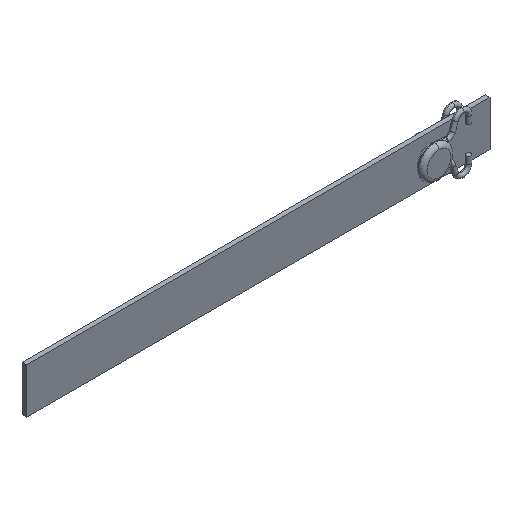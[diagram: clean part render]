
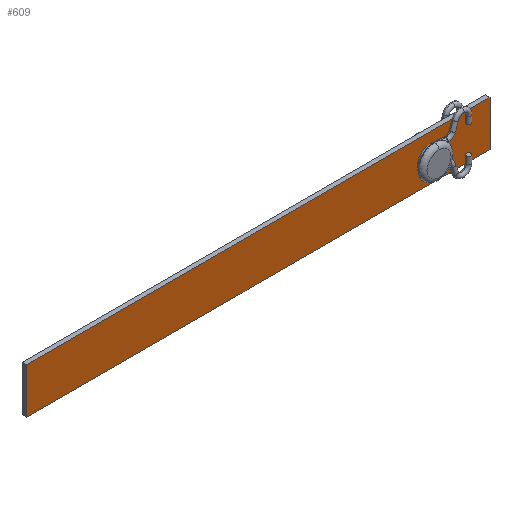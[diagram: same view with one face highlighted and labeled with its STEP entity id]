
A CAD part, isometric view. The second image highlights one B-rep face of the part: STEP entity #609.
In plain terms, the highlighted planar face has unit normal (0, -1, 0).
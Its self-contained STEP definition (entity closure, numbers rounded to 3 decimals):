
#4 = LINE ( 'NONE', #1346, #1741 ) ;
#21 = EDGE_CURVE ( 'NONE', #881, #181, #1284, .T. ) ;
#121 = CARTESIAN_POINT ( 'NONE',  ( -13., -0.5, 0. ) ) ;
#181 = VERTEX_POINT ( 'NONE', #668 ) ;
#301 = DIRECTION ( 'NONE',  ( 0., 0., 1. ) ) ;
#308 = AXIS2_PLACEMENT_3D ( 'NONE', #721, #1722, #702 ) ;
#368 = AXIS2_PLACEMENT_3D ( 'NONE', #121, #1299, #301 ) ;
#373 = CIRCLE ( 'NONE', #2165, 1.95 ) ;
#374 = CARTESIAN_POINT ( 'NONE',  ( 0., -0.5, -4.9 ) ) ;
#447 = DIRECTION ( 'NONE',  ( -1., 0., 0. ) ) ;
#476 = ORIENTED_EDGE ( 'NONE', *, *, #1422, .F. ) ;
#481 = DIRECTION ( 'NONE',  ( 0., 0., -1. ) ) ;
#509 = DIRECTION ( 'NONE',  ( 0., 0., 1. ) ) ;
#581 = CARTESIAN_POINT ( 'NONE',  ( 0., -0.5, 4.9 ) ) ;
#598 = EDGE_CURVE ( 'NONE', #181, #881, #373, .T. ) ;
#609 = ADVANCED_FACE ( 'NONE', ( #1625, #1254 ), #1562, .F. ) ;
#654 = VERTEX_POINT ( 'NONE', #374 ) ;
#668 = CARTESIAN_POINT ( 'NONE',  ( -13., -0.5, -1.95 ) ) ;
#692 = EDGE_LOOP ( 'NONE', ( #1723, #978, #734, #476 ) ) ;
#693 = CARTESIAN_POINT ( 'NONE',  ( -100., -0.5, -4.9 ) ) ;
#702 = DIRECTION ( 'NONE',  ( 0., 0., 1. ) ) ;
#721 = CARTESIAN_POINT ( 'NONE',  ( 0., -0.5, 0. ) ) ;
#734 = ORIENTED_EDGE ( 'NONE', *, *, #1225, .F. ) ;
#756 = VECTOR ( 'NONE', #1935, 1000. ) ;
#772 = EDGE_CURVE ( 'NONE', #654, #998, #1838, .T. ) ;
#881 = VERTEX_POINT ( 'NONE', #940 ) ;
#889 = DIRECTION ( 'NONE',  ( 0., 0., 1. ) ) ;
#940 = CARTESIAN_POINT ( 'NONE',  ( -13., -0.5, 1.95 ) ) ;
#950 = VECTOR ( 'NONE', #447, 1000. ) ;
#978 = ORIENTED_EDGE ( 'NONE', *, *, #1561, .F. ) ;
#994 = CARTESIAN_POINT ( 'NONE',  ( -100., -0.5, 4.9 ) ) ;
#998 = VERTEX_POINT ( 'NONE', #1229 ) ;
#1065 = CARTESIAN_POINT ( 'NONE',  ( -13., -0.5, 0. ) ) ;
#1157 = ORIENTED_EDGE ( 'NONE', *, *, #598, .T. ) ;
#1225 = EDGE_CURVE ( 'NONE', #1431, #1932, #1654, .T. ) ;
#1229 = CARTESIAN_POINT ( 'NONE',  ( -100., -0.5, -4.9 ) ) ;
#1254 = FACE_OUTER_BOUND ( 'NONE', #692, .T. ) ;
#1284 = CIRCLE ( 'NONE', #368, 1.95 ) ;
#1299 = DIRECTION ( 'NONE',  ( 0., 1., 0. ) ) ;
#1332 = LINE ( 'NONE', #693, #2198 ) ;
#1346 = CARTESIAN_POINT ( 'NONE',  ( 0., -0.5, 4.9 ) ) ;
#1422 = EDGE_CURVE ( 'NONE', #998, #1431, #1332, .T. ) ;
#1431 = VERTEX_POINT ( 'NONE', #994 ) ;
#1455 = CARTESIAN_POINT ( 'NONE',  ( 0., -0.5, -4.9 ) ) ;
#1561 = EDGE_CURVE ( 'NONE', #1932, #654, #4, .T. ) ;
#1562 = PLANE ( 'NONE',  #308 ) ;
#1625 = FACE_BOUND ( 'NONE', #2007, .T. ) ;
#1654 = LINE ( 'NONE', #1964, #756 ) ;
#1722 = DIRECTION ( 'NONE',  ( 0., 1., 0. ) ) ;
#1723 = ORIENTED_EDGE ( 'NONE', *, *, #772, .F. ) ;
#1741 = VECTOR ( 'NONE', #481, 1000. ) ;
#1838 = LINE ( 'NONE', #1455, #950 ) ;
#1898 = DIRECTION ( 'NONE',  ( 0., 1., 0. ) ) ;
#1932 = VERTEX_POINT ( 'NONE', #581 ) ;
#1935 = DIRECTION ( 'NONE',  ( 1., 0., 0. ) ) ;
#1964 = CARTESIAN_POINT ( 'NONE',  ( 0., -0.5, 4.9 ) ) ;
#2007 = EDGE_LOOP ( 'NONE', ( #2181, #1157 ) ) ;
#2165 = AXIS2_PLACEMENT_3D ( 'NONE', #1065, #1898, #889 ) ;
#2181 = ORIENTED_EDGE ( 'NONE', *, *, #21, .T. ) ;
#2198 = VECTOR ( 'NONE', #509, 1000. ) ;
